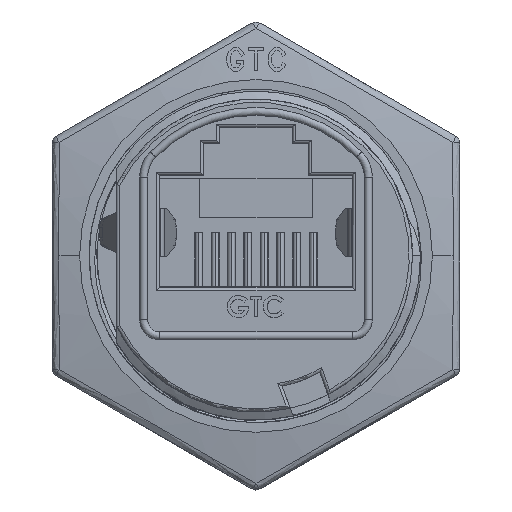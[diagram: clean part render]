
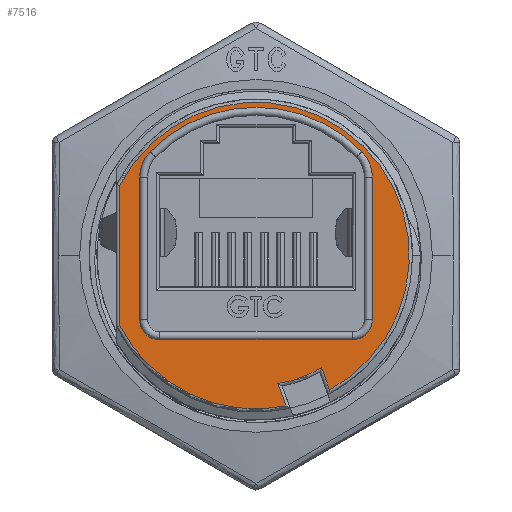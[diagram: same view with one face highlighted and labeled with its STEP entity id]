
A CAD part, top view. The second image highlights one B-rep face of the part: STEP entity #7516.
In plain terms, the highlighted planar face has unit normal (0, 0, 1).
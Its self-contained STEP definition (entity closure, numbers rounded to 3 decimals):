
#7437 = VERTEX_POINT ( 'NONE', #43595 ) ;
#7441 = ORIENTED_EDGE ( 'NONE', *, *, #7519, .T. ) ;
#7446 = VERTEX_POINT ( 'NONE', #43636 ) ;
#7457 = VERTEX_POINT ( 'NONE', #43596 ) ;
#7482 = VERTEX_POINT ( 'NONE', #43702 ) ;
#7483 = VERTEX_POINT ( 'NONE', #43694 ) ;
#7484 = EDGE_CURVE ( 'NONE', #7510, #7495, #43696, .T. ) ;
#7486 = ORIENTED_EDGE ( 'NONE', *, *, #7557, .F. ) ;
#7489 = ORIENTED_EDGE ( 'NONE', *, *, #7493, .T. ) ;
#7490 = EDGE_CURVE ( 'NONE', #7499, #7497, #43691, .T. ) ;
#7493 = EDGE_CURVE ( 'NONE', #7457, #7499, #43693, .T. ) ;
#7494 = VERTEX_POINT ( 'NONE', #43748 ) ;
#7495 = VERTEX_POINT ( 'NONE', #43648 ) ;
#7497 = VERTEX_POINT ( 'NONE', #43740 ) ;
#7498 = VERTEX_POINT ( 'NONE', #43736 ) ;
#7499 = VERTEX_POINT ( 'NONE', #43743 ) ;
#7500 = ORIENTED_EDGE ( 'NONE', *, *, #7503, .T. ) ;
#7501 = EDGE_CURVE ( 'NONE', #7505, #7506, #43749, .T. ) ;
#7502 = ORIENTED_EDGE ( 'NONE', *, *, #7490, .T. ) ;
#7503 = EDGE_CURVE ( 'NONE', #7497, #7494, #43703, .T. ) ;
#7505 = VERTEX_POINT ( 'NONE', #43724 ) ;
#7506 = VERTEX_POINT ( 'NONE', #43732 ) ;
#7507 = ORIENTED_EDGE ( 'NONE', *, *, #7508, .T. ) ;
#7508 = EDGE_CURVE ( 'NONE', #7494, #7446, #43715, .T. ) ;
#7510 = VERTEX_POINT ( 'NONE', #43730 ) ;
#7511 = VERTEX_POINT ( 'NONE', #43717 ) ;
#7512 = EDGE_LOOP ( 'NONE', ( #7513, #7567, #7570, #7566, #7569, #7556, #7486, #7560 ) ) ;
#7513 = ORIENTED_EDGE ( 'NONE', *, *, #7501, .F. ) ;
#7514 = EDGE_LOOP ( 'NONE', ( #7441, #7517, #7489, #7502, #7500, #7507 ) ) ;
#7516 = ADVANCED_FACE ( 'NONE', ( #43783, #43781 ), #43772, .F. ) ;
#7517 = ORIENTED_EDGE ( 'NONE', *, *, #7518, .T. ) ;
#7518 = EDGE_CURVE ( 'NONE', #7437, #7457, #43779, .T. ) ;
#7519 = EDGE_CURVE ( 'NONE', #7446, #7437, #43780, .T. ) ;
#7552 = EDGE_CURVE ( 'NONE', #7483, #7510, #43841, .T. ) ;
#7556 = ORIENTED_EDGE ( 'NONE', *, *, #7552, .F. ) ;
#7557 = EDGE_CURVE ( 'NONE', #7482, #7483, #43835, .T. ) ;
#7558 = EDGE_CURVE ( 'NONE', #7482, #7506, #43842, .T. ) ;
#7560 = ORIENTED_EDGE ( 'NONE', *, *, #7558, .T. ) ;
#7564 = EDGE_CURVE ( 'NONE', #7498, #7505, #43876, .T. ) ;
#7566 = ORIENTED_EDGE ( 'NONE', *, *, #7571, .F. ) ;
#7567 = ORIENTED_EDGE ( 'NONE', *, *, #7564, .F. ) ;
#7568 = EDGE_CURVE ( 'NONE', #7511, #7498, #43818, .T. ) ;
#7569 = ORIENTED_EDGE ( 'NONE', *, *, #7484, .F. ) ;
#7570 = ORIENTED_EDGE ( 'NONE', *, *, #7568, .F. ) ;
#7571 = EDGE_CURVE ( 'NONE', #7495, #7511, #43820, .T. ) ;
#43595 = CARTESIAN_POINT ( 'NONE',  ( -8.5, 4.375, 0. ) ) ;
#43596 = CARTESIAN_POINT ( 'NONE',  ( -8.5, -4.375, 0. ) ) ;
#43636 = CARTESIAN_POINT ( 'NONE',  ( 4.594, -8.384, 0. ) ) ;
#43648 = CARTESIAN_POINT ( 'NONE',  ( -6., -5.25, 0. ) ) ;
#43674 = DIRECTION ( 'NONE',  ( -0.342, 0.94, 0. ) ) ;
#43675 = VECTOR ( 'NONE', #43674, 1000. ) ;
#43676 = AXIS2_PLACEMENT_3D ( 'NONE', #43681, #43745, #43744 ) ;
#43677 = DIRECTION ( 'NONE',  ( 0., 0., 1. ) ) ;
#43681 = CARTESIAN_POINT ( 'NONE',  ( 0., 0., 0. ) ) ;
#43682 = DIRECTION ( 'NONE',  ( -1., 0., 0. ) ) ;
#43685 = DIRECTION ( 'NONE',  ( 0., 0., 1. ) ) ;
#43686 = CARTESIAN_POINT ( 'NONE',  ( -6., -4., 0. ) ) ;
#43687 = AXIS2_PLACEMENT_3D ( 'NONE', #43686, #43685, #43682 ) ;
#43690 = CARTESIAN_POINT ( 'NONE',  ( -1.363, -0.496, 0. ) ) ;
#43691 = LINE ( 'NONE', #43690, #43675 ) ;
#43693 = CIRCLE ( 'NONE', #43676, 9.56 ) ;
#43694 = CARTESIAN_POINT ( 'NONE',  ( -7.25, 4.899, 0. ) ) ;
#43696 = CIRCLE ( 'NONE', #43687, 1.25 ) ;
#43702 = CARTESIAN_POINT ( 'NONE',  ( -6.607, 6.474, 0. ) ) ;
#43703 = CIRCLE ( 'NONE', #43731, 8.1 ) ;
#43711 = DIRECTION ( 'NONE',  ( 0.342, -0.94, 0. ) ) ;
#43712 = VECTOR ( 'NONE', #43711, 1000. ) ;
#43713 = CARTESIAN_POINT ( 'NONE',  ( 1.363, 0.496, 0. ) ) ;
#43715 = LINE ( 'NONE', #43713, #43712 ) ;
#43717 = CARTESIAN_POINT ( 'NONE',  ( 6., -5.25, 0. ) ) ;
#43720 = DIRECTION ( 'NONE',  ( -1., 0., 0. ) ) ;
#43721 = DIRECTION ( 'NONE',  ( 0., 0., 1. ) ) ;
#43724 = CARTESIAN_POINT ( 'NONE',  ( 7.25, 4.899, 0. ) ) ;
#43727 = DIRECTION ( 'NONE',  ( -1., 0., 0. ) ) ;
#43728 = AXIS2_PLACEMENT_3D ( 'NONE', #43739, #43677, #43727 ) ;
#43729 = CARTESIAN_POINT ( 'NONE',  ( 0., 0., 0. ) ) ;
#43730 = CARTESIAN_POINT ( 'NONE',  ( -7.25, -4., 0. ) ) ;
#43731 = AXIS2_PLACEMENT_3D ( 'NONE', #43729, #43721, #43720 ) ;
#43732 = CARTESIAN_POINT ( 'NONE',  ( 6.607, 6.474, 0. ) ) ;
#43736 = CARTESIAN_POINT ( 'NONE',  ( 7.25, -4., 0. ) ) ;
#43739 = CARTESIAN_POINT ( 'NONE',  ( 5., 4.899, 0. ) ) ;
#43740 = CARTESIAN_POINT ( 'NONE',  ( 1.363, -7.984, 0. ) ) ;
#43743 = CARTESIAN_POINT ( 'NONE',  ( 1.869, -9.375, 0. ) ) ;
#43744 = DIRECTION ( 'NONE',  ( -1., 0., 0. ) ) ;
#43745 = DIRECTION ( 'NONE',  ( 0., 0., 1. ) ) ;
#43748 = CARTESIAN_POINT ( 'NONE',  ( 4.088, -6.993, 0. ) ) ;
#43749 = CIRCLE ( 'NONE', #43728, 2.25 ) ;
#43759 = DIRECTION ( 'NONE',  ( -1., 0., 0. ) ) ;
#43760 = DIRECTION ( 'NONE',  ( 0., 0., 1. ) ) ;
#43761 = CARTESIAN_POINT ( 'NONE',  ( -5., 4.899, 0. ) ) ;
#43766 = DIRECTION ( 'NONE',  ( 0., -1., 0. ) ) ;
#43767 = VECTOR ( 'NONE', #43766, 1000. ) ;
#43768 = DIRECTION ( 'NONE',  ( -1., 0., 0. ) ) ;
#43769 = DIRECTION ( 'NONE',  ( 0., 0., -1. ) ) ;
#43770 = CARTESIAN_POINT ( 'NONE',  ( 0., 0., 0. ) ) ;
#43771 = AXIS2_PLACEMENT_3D ( 'NONE', #43770, #43769, #43768 ) ;
#43772 = PLANE ( 'NONE',  #43771 ) ;
#43776 = CARTESIAN_POINT ( 'NONE',  ( 0., 0., 0. ) ) ;
#43777 = AXIS2_PLACEMENT_3D ( 'NONE', #43776, #43760, #43759 ) ;
#43778 = CARTESIAN_POINT ( 'NONE',  ( -8.5, 0., 0. ) ) ;
#43779 = LINE ( 'NONE', #43778, #43767 ) ;
#43780 = CIRCLE ( 'NONE', #43777, 9.56 ) ;
#43781 = FACE_BOUND ( 'NONE', #7512, .T. ) ;
#43783 = FACE_OUTER_BOUND ( 'NONE', #7514, .T. ) ;
#43818 = CIRCLE ( 'NONE', #43877, 1.25 ) ;
#43820 = LINE ( 'NONE', #43868, #43866 ) ;
#43824 = DIRECTION ( 'NONE',  ( -1., 0., 0. ) ) ;
#43828 = AXIS2_PLACEMENT_3D ( 'NONE', #43833, #43831, #43824 ) ;
#43829 = DIRECTION ( 'NONE',  ( -1., 0., 0. ) ) ;
#43830 = DIRECTION ( 'NONE',  ( 0., 0., 1. ) ) ;
#43831 = DIRECTION ( 'NONE',  ( 0., 0., -1. ) ) ;
#43833 = CARTESIAN_POINT ( 'NONE',  ( 0., 0., 0. ) ) ;
#43835 = CIRCLE ( 'NONE', #43847, 2.25 ) ;
#43836 = DIRECTION ( 'NONE',  ( 0., -1., 0. ) ) ;
#43837 = VECTOR ( 'NONE', #43836, 1000. ) ;
#43840 = CARTESIAN_POINT ( 'NONE',  ( -7.25, 4.899, 0. ) ) ;
#43841 = LINE ( 'NONE', #43840, #43837 ) ;
#43842 = CIRCLE ( 'NONE', #43828, 9.25 ) ;
#43847 = AXIS2_PLACEMENT_3D ( 'NONE', #43761, #43830, #43829 ) ;
#43865 = DIRECTION ( 'NONE',  ( 1., 0., 0. ) ) ;
#43866 = VECTOR ( 'NONE', #43865, 1000. ) ;
#43868 = CARTESIAN_POINT ( 'NONE',  ( -6., -5.25, 0. ) ) ;
#43869 = DIRECTION ( 'NONE',  ( -1., 0., 0. ) ) ;
#43870 = DIRECTION ( 'NONE',  ( 0., 0., 1. ) ) ;
#43871 = CARTESIAN_POINT ( 'NONE',  ( 6., -4., 0. ) ) ;
#43873 = DIRECTION ( 'NONE',  ( 0., 1., 0. ) ) ;
#43874 = VECTOR ( 'NONE', #43873, 1000. ) ;
#43875 = CARTESIAN_POINT ( 'NONE',  ( 7.25, -4., 0. ) ) ;
#43876 = LINE ( 'NONE', #43875, #43874 ) ;
#43877 = AXIS2_PLACEMENT_3D ( 'NONE', #43871, #43870, #43869 ) ;
